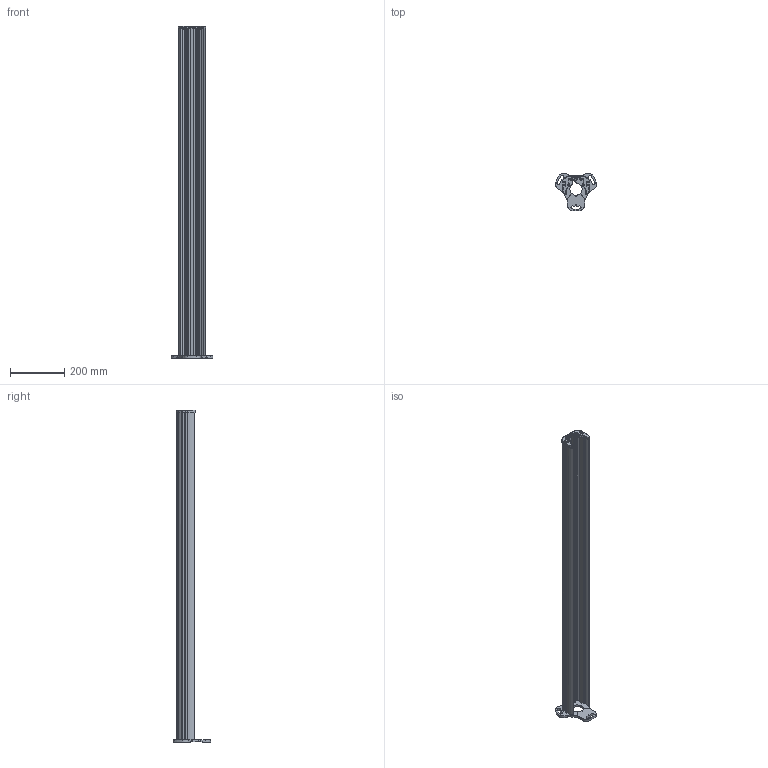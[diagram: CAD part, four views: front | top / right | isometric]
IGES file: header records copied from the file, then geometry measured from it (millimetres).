
Global section: file name: H306221_A_protective_column_120_PSEN_opII_Kundendaten; native system: Autodesk Inventor 2019; preprocessor: unknown; date: 20190702.124543; units: millimetre
Bounding box: 153.46 x 139.2 x 1224.3 mm (x, y, z)
Volume: 1633607.3 mm3; surface area: 721765.9 mm2
Topology: 1 solids, 1 shells, 846 faces, 2177 edges, 1326 vertices
Faces by surface type: bspline 846
